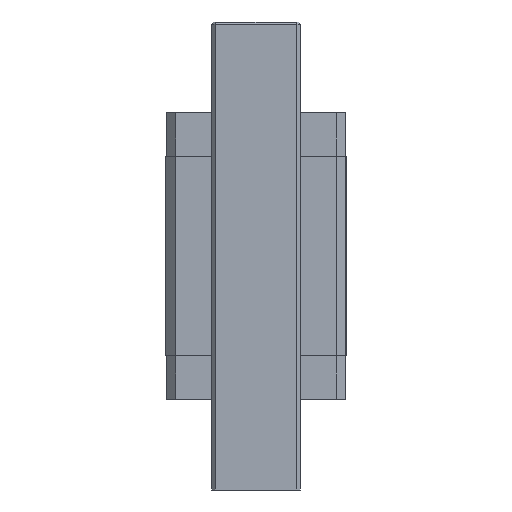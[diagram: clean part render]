
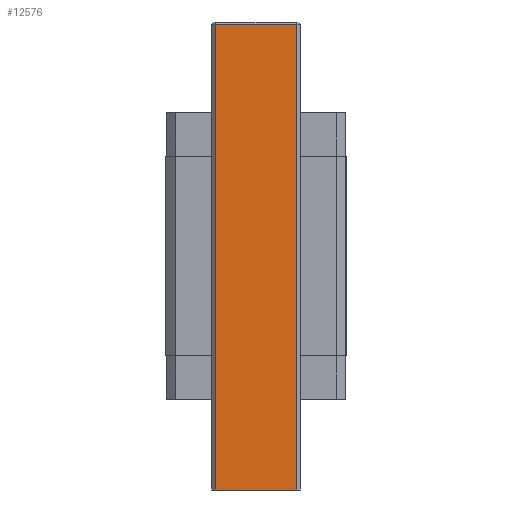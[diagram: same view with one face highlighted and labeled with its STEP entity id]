
A CAD part, front view. The second image highlights one B-rep face of the part: STEP entity #12576.
In plain terms, the highlighted planar face has unit normal (0, -1, 0).
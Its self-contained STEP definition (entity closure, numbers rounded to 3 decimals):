
#11537=DIRECTION('',(1.,0.,0.));
#11538=VECTOR('',#11537,31.6);
#11539=CARTESIAN_POINT('',(-15.8,-18.5,-90.25));
#11540=LINE('',#11539,#11538);
#11810=DIRECTION('',(1.,0.,0.));
#11811=VECTOR('',#11810,31.6);
#11812=CARTESIAN_POINT('',(-15.8,-18.5,89.384));
#11813=LINE('',#11812,#11811);
#11814=DIRECTION('',(0.,0.,1.));
#11815=VECTOR('',#11814,179.634);
#11816=CARTESIAN_POINT('',(-15.8,-18.5,-90.25));
#11817=LINE('',#11816,#11815);
#11822=DIRECTION('',(0.,0.,1.));
#11823=VECTOR('',#11822,179.634);
#11824=CARTESIAN_POINT('',(15.8,-18.5,-90.25));
#11825=LINE('',#11824,#11823);
#12008=CARTESIAN_POINT('',(-15.8,-18.5,-90.25));
#12009=VERTEX_POINT('',#12008);
#12010=CARTESIAN_POINT('',(15.8,-18.5,-90.25));
#12011=VERTEX_POINT('',#12010);
#12072=CARTESIAN_POINT('',(15.8,-18.5,89.384));
#12073=VERTEX_POINT('',#12072);
#12076=CARTESIAN_POINT('',(-15.8,-18.5,89.384));
#12077=VERTEX_POINT('',#12076);
#12564=CARTESIAN_POINT('',(-15.8,-18.5,-90.25));
#12565=DIRECTION('',(0.,-1.,0.));
#12566=DIRECTION('',(1.,0.,0.));
#12567=AXIS2_PLACEMENT_3D('',#12564,#12565,#12566);
#12568=PLANE('',#12567);
#12569=ORIENTED_EDGE('',*,*,#12555,.T.);
#12571=ORIENTED_EDGE('',*,*,#12570,.F.);
#12572=ORIENTED_EDGE('',*,*,#12157,.F.);
#12573=ORIENTED_EDGE('',*,*,#12530,.T.);
#12574=EDGE_LOOP('',(#12569,#12571,#12572,#12573));
#12575=FACE_OUTER_BOUND('',#12574,.F.);
#12157=EDGE_CURVE('',#12009,#12011,#11540,.T.);
#12530=EDGE_CURVE('',#12009,#12077,#11817,.T.);
#12555=EDGE_CURVE('',#12077,#12073,#11813,.T.);
#12570=EDGE_CURVE('',#12011,#12073,#11825,.T.);
#12576=ADVANCED_FACE('',(#12575),#12568,.T.);
